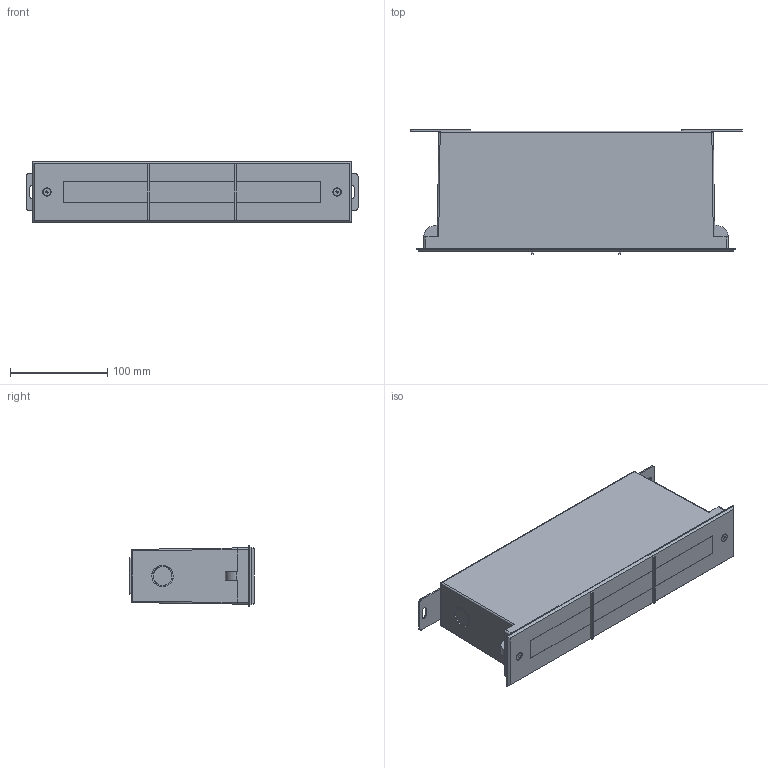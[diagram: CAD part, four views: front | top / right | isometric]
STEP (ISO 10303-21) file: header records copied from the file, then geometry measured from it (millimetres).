
FILE_DESCRIPTION((''),'2;1');
FILE_NAME('B2FL0656_ASM_ASM','2020-07-14T',('Administrator'),(''),'PRO/ENGINEER BY PARAMETRIC TECHNOLOGY CORPORATION, 2014000','PRO/ENGINEER BY PARAMETRIC TECHNOLOGY CORPORATION, 2014000','');
FILE_SCHEMA(('CONFIG_CONTROL_DESIGN'));
Products named in the file (25): B27A_21; CROSS_RECESSED_COUNTERSUN-10673; CROSS_RECESSED_COUNTERSUN-62754; PGB9_______21; HEXAGON_SOCKET_COUNTERSUNK_HEAD; 2FL-06_21; 2BL-D_____21; ____1_D1BL2014_21; 2BL-B_____23; 2BL06_______21; 2BL-E_21; SCREW-M12_1_19; 2FL-A_______19; _____5_____2FL-A____19; 2FL-A_________19; 2FL-A___________19; ______5_______2FL-A_______ASM_1_ASM; _5_2FL-A__ASM_19_ASM; GUDINGZHIJIA-4QA_20; CHAPIAN-00_12; PRT0012_10; 2FL-NEW-SLEEVE-06GMDANG_7; NEW-SLEEVE_ASM_21_ASM; B2FL0656_ASM_23_ASM; B2FL0656_ASM_ASM
Assembly tree (47 placements, depth 5):
  B2FL0656_ASM_ASM
    B2FL0656_ASM_23_ASM
      B27A_21  x6
      CROSS_RECESSED_COUNTERSUN-10673  x10
      CROSS_RECESSED_COUNTERSUN-62754  x7
      PGB9_______21
      HEXAGON_SOCKET_COUNTERSUNK_HEAD  x2
      2FL-06_21
      2BL-D_____21
      ____1_D1BL2014_21
      2BL-B_____23
      2BL06_______21
      2BL-E_21
      _5_2FL-A__ASM_19_ASM
        ______5_______2FL-A_______ASM_1_ASM
          SCREW-M12_1_19  x2
          2FL-A_______19
          _____5_____2FL-A____19
          2FL-A_________19
          2FL-A___________19
      NEW-SLEEVE_ASM_21_ASM
        GUDINGZHIJIA-4QA_20  x2
        CHAPIAN-00_12
        PRT0012_10
        2FL-NEW-SLEEVE-06GMDANG_7
Bounding box: 341 x 127.5 x 63 mm (x, y, z)
Volume: 583502.9 mm3; surface area: 485904.8 mm2
Topology: 42 solids, 42 shells, 4044 faces, 11292 edges, 7423 vertices
Faces by surface type: plane 2374, cylinder 1056, cone 384, extrusion 114, bspline 64, sphere 30, torus 22
Entity records: 123691 total; most frequent: CARTESIAN_POINT 32052, ORIENTED_EDGE 19652, DIRECTION 18317, EDGE_CURVE 9826, VERTEX_POINT 6517, VECTOR 6255, LINE 6141, AXIS2_PLACEMENT_3D 6031
